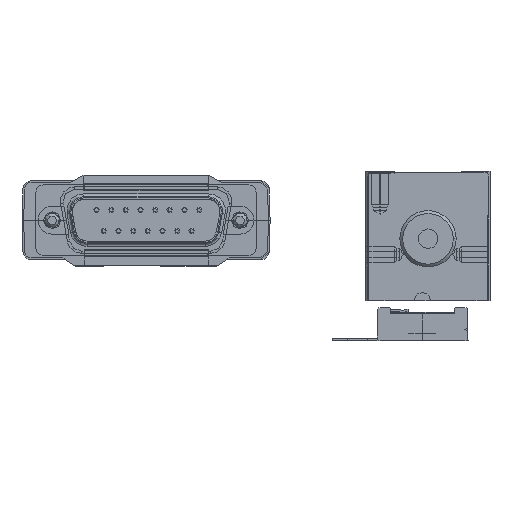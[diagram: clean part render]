
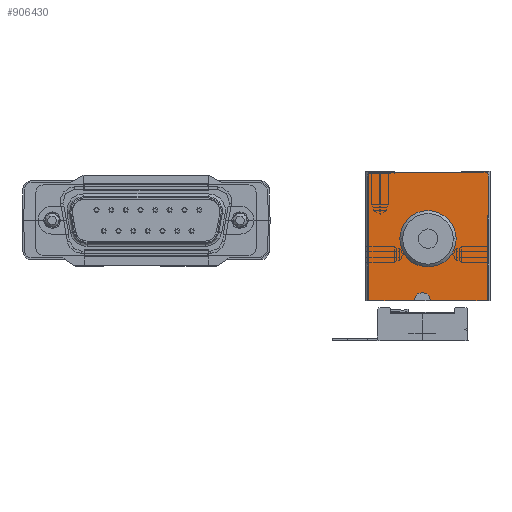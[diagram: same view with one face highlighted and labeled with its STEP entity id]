
A CAD part, front view. The second image highlights one B-rep face of the part: STEP entity #906430.
In plain terms, the highlighted planar face has unit normal (0, -1, 0) as drawn and (1, 0, 0) by its records, which use the part's own axes.
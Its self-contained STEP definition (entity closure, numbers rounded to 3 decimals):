
#897750=CARTESIAN_POINT('',(40.,22.,0.));
#897760=DIRECTION('',(0.,-1.,0.));
#897770=VECTOR('',#897760,1.);
#897780=LINE('',#897750,#897770);
#897790=CARTESIAN_POINT('',(40.,5.,0.));
#897800=VERTEX_POINT('',#897790);
#897810=CARTESIAN_POINT('',(40.,0.5,0.));
#897820=VERTEX_POINT('',#897810);
#897830=EDGE_CURVE('',#897800,#897820,#897780,.T.);
#900700=CARTESIAN_POINT('',(40.,0.5,-23.));
#900710=VERTEX_POINT('',#900700);
#900740=CARTESIAN_POINT('',(40.,0.,-23.));
#900750=DIRECTION('',(0.,1.,0.));
#900760=VECTOR('',#900750,1.);
#900770=LINE('',#900740,#900760);
#900780=CARTESIAN_POINT('',(40.,8.6,-23.));
#900790=VERTEX_POINT('',#900780);
#900800=EDGE_CURVE('',#900710,#900790,#900770,.T.);
#901020=CARTESIAN_POINT('',(40.,11.4,-23.));
#901030=VERTEX_POINT('',#901020);
#901060=CARTESIAN_POINT('',(40.,21.5,-23.));
#901070=VERTEX_POINT('',#901060);
#901080=EDGE_CURVE('',#901030,#901070,#900770,.T.);
#903000=CARTESIAN_POINT('',(40.,11.4,0.));
#903010=DIRECTION('',(0.,0.,1.));
#903020=VECTOR('',#903010,1.);
#903030=LINE('',#903000,#903020);
#903040=CARTESIAN_POINT('',(40.,11.4,-22.8));
#903050=VERTEX_POINT('',#903040);
#903060=EDGE_CURVE('',#901030,#903050,#903030,.T.);
#903730=CARTESIAN_POINT('',(40.,9.8,-22.8));
#903740=DIRECTION('',(-1.,0.,0.));
#903750=DIRECTION('',(0.,1.,0.));
#903760=AXIS2_PLACEMENT_3D('',#903730,#903740,#903750);
#903770=CIRCLE('',#903760,1.2);
#903780=CARTESIAN_POINT('',(40.,8.6,-22.8));
#903790=VERTEX_POINT('',#903780);
#903800=CARTESIAN_POINT('',(40.,9.8,-21.6));
#903810=VERTEX_POINT('',#903800);
#903820=EDGE_CURVE('',#903790,#903810,#903770,.T.);
#904050=CARTESIAN_POINT('',(40.,0.,-21.6));
#904060=DIRECTION('',(0.,-1.,0.));
#904070=VECTOR('',#904060,1.);
#904080=LINE('',#904050,#904070);
#904090=CARTESIAN_POINT('',(40.,10.2,-21.6));
#904100=VERTEX_POINT('',#904090);
#904110=EDGE_CURVE('',#904100,#903810,#904080,.T.);
#904310=CARTESIAN_POINT('',(40.,10.2,-22.8));
#904320=DIRECTION('',(-1.,0.,0.));
#904330=DIRECTION('',(0.,1.,0.));
#904340=AXIS2_PLACEMENT_3D('',#904310,#904320,#904330);
#904350=CIRCLE('',#904340,1.2);
#904360=EDGE_CURVE('',#904100,#903050,#904350,.T.);
#904490=CARTESIAN_POINT('',(40.,8.6,0.));
#904500=DIRECTION('',(0.,0.,-1.));
#904510=VECTOR('',#904500,1.);
#904520=LINE('',#904490,#904510);
#904530=EDGE_CURVE('',#903790,#900790,#904520,.T.);
#904640=CARTESIAN_POINT('',(40.,5.846,-7.9));
#904650=DIRECTION('',(0.,-1.,0.));
#904660=VECTOR('',#904650,1.);
#904670=LINE('',#904640,#904660);
#904680=CARTESIAN_POINT('',(40.,21.8,-7.9));
#904690=VERTEX_POINT('',#904680);
#904700=CARTESIAN_POINT('',(40.,21.5,-7.9));
#904710=VERTEX_POINT('',#904700);
#904720=EDGE_CURVE('',#904690,#904710,#904670,.T.);
#905450=CARTESIAN_POINT('',(40.,0.1,-0.8));
#905460=DIRECTION('',(1.,-0.,0.));
#905470=DIRECTION('',(0.,0.,-1.));
#905480=AXIS2_PLACEMENT_3D('',#905450,#905460,#905470);
#905490=PLANE('',#905480);
#905500=CARTESIAN_POINT('',(40.,20.9,-1.1));
#905510=DIRECTION('',(1.,0.,0.));
#905520=DIRECTION('',(0.,-1.,0.));
#905530=AXIS2_PLACEMENT_3D('',#905500,#905510,#905520);
#905540=CIRCLE('',#905530,0.9);
#905550=CARTESIAN_POINT('',(40.,21.8,-1.1));
#905560=VERTEX_POINT('',#905550);
#905570=CARTESIAN_POINT('',(40.,20.9,-0.2));
#905580=VERTEX_POINT('',#905570);
#905590=EDGE_CURVE('',#905560,#905580,#905540,.T.);
#905600=ORIENTED_EDGE('',*,*,#905590,.T.);
#905610=CARTESIAN_POINT('',(40.,21.8,-0.8));
#905620=DIRECTION('',(0.,0.,1.));
#905630=VECTOR('',#905620,1.);
#905640=LINE('',#905610,#905630);
#905650=EDGE_CURVE('',#904690,#905560,#905640,.T.);
#905660=ORIENTED_EDGE('',*,*,#905650,.T.);
#905670=ORIENTED_EDGE('',*,*,#904720,.F.);
#905680=CARTESIAN_POINT('',(40.,21.5,0.));
#905690=DIRECTION('',(0.,0.,1.));
#905700=VECTOR('',#905690,1.);
#905710=LINE('',#905680,#905700);
#905720=CARTESIAN_POINT('',(40.,21.5,-8.));
#905730=VERTEX_POINT('',#905720);
#905740=EDGE_CURVE('',#905730,#904710,#905710,.T.);
#905750=ORIENTED_EDGE('',*,*,#905740,.T.);
#905760=CARTESIAN_POINT('',(40.,21.5,-15.5));
#905770=DIRECTION('',(0.,0.,-1.));
#905780=VECTOR('',#905770,1.);
#905790=LINE('',#905760,#905780);
#905800=EDGE_CURVE('',#905730,#901070,#905790,.T.);
#905810=ORIENTED_EDGE('',*,*,#905800,.F.);
#905820=ORIENTED_EDGE('',*,*,#901080,.T.);
#905830=ORIENTED_EDGE('',*,*,#903060,.F.);
#905840=ORIENTED_EDGE('',*,*,#904360,.T.);
#905850=ORIENTED_EDGE('',*,*,#904110,.F.);
#905860=ORIENTED_EDGE('',*,*,#903820,.T.);
#905870=ORIENTED_EDGE('',*,*,#904530,.F.);
#905880=ORIENTED_EDGE('',*,*,#900800,.T.);
#905890=CARTESIAN_POINT('',(40.,0.5,-11.5));
#905900=DIRECTION('',(0.,0.,-1.));
#905910=VECTOR('',#905900,1.);
#905920=LINE('',#905890,#905910);
#905930=EDGE_CURVE('',#897820,#900710,#905920,.T.);
#905940=ORIENTED_EDGE('',*,*,#905930,.T.);
#905950=ORIENTED_EDGE('',*,*,#897830,.T.);
#905960=CARTESIAN_POINT('',(40.,5.,0.));
#905970=DIRECTION('',(0.,0.,-1.));
#905980=VECTOR('',#905970,1.);
#905990=LINE('',#905960,#905980);
#906000=CARTESIAN_POINT('',(40.,5.,-0.5));
#906010=VERTEX_POINT('',#906000);
#906020=EDGE_CURVE('',#897800,#906010,#905990,.T.);
#906030=ORIENTED_EDGE('',*,*,#906020,.F.);
#906040=CARTESIAN_POINT('',(40.,0.,-0.5));
#906050=DIRECTION('',(0.,-1.,0.));
#906060=VECTOR('',#906050,1.);
#906070=LINE('',#906040,#906060);
#906080=CARTESIAN_POINT('',(40.,5.05,-0.5));
#906090=VERTEX_POINT('',#906080);
#906100=EDGE_CURVE('',#906090,#906010,#906070,.T.);
#906110=ORIENTED_EDGE('',*,*,#906100,.T.);
#906120=CARTESIAN_POINT('',(40.,5.05,-0.8));
#906130=DIRECTION('',(0.,0.,1.));
#906140=VECTOR('',#906130,1.);
#906150=LINE('',#906120,#906140);
#906160=CARTESIAN_POINT('',(40.,5.05,-0.2));
#906170=VERTEX_POINT('',#906160);
#906180=EDGE_CURVE('',#906090,#906170,#906150,.T.);
#906190=ORIENTED_EDGE('',*,*,#906180,.F.);
#906200=CARTESIAN_POINT('',(40.,5.646,-0.2));
#906210=DIRECTION('',(0.,1.,0.));
#906220=VECTOR('',#906210,1.);
#906230=LINE('',#906200,#906220);
#906240=EDGE_CURVE('',#906170,#905580,#906230,.T.);
#906250=ORIENTED_EDGE('',*,*,#906240,.F.);
#906260=EDGE_LOOP('',(#906250,#906190,#906110,#906030,#905950,#905940,
#905880,#905870,#905860,#905850,#905840,#905830,#905820,#905810,#905750,
#905670,#905660,#905600));
#906270=FACE_OUTER_BOUND('',#906260,.T.);
#906280=CARTESIAN_POINT('',(40.,11.,-12.));
#906290=DIRECTION('',(1.,0.,0.));
#906300=DIRECTION('',(0.,1.,0.));
#906310=AXIS2_PLACEMENT_3D('',#906280,#906290,#906300);
#906320=CIRCLE('',#906310,5.);
#906330=CARTESIAN_POINT('',(40.,16.,-12.));
#906340=VERTEX_POINT('',#906330);
#906350=CARTESIAN_POINT('',(40.,6.,-12.));
#906360=VERTEX_POINT('',#906350);
#906370=EDGE_CURVE('',#906340,#906360,#906320,.T.);
#906380=ORIENTED_EDGE('',*,*,#906370,.F.);
#906390=EDGE_CURVE('',#906360,#906340,#906320,.T.);
#906400=ORIENTED_EDGE('',*,*,#906390,.F.);
#906410=EDGE_LOOP('',(#906400,#906380));
#906420=FACE_BOUND('',#906410,.T.);
#906430=ADVANCED_FACE('',(#906270,#906420),#905490,.T.);
